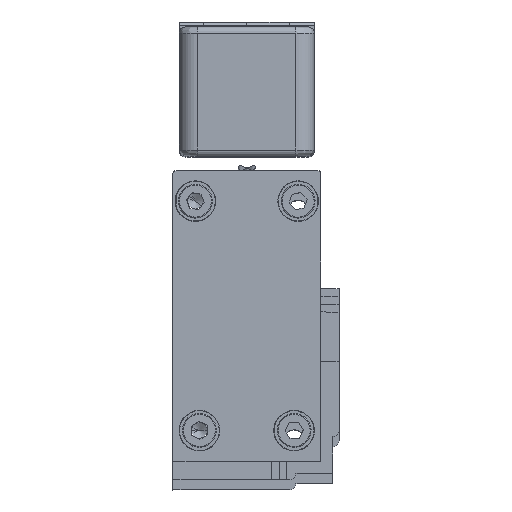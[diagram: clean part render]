
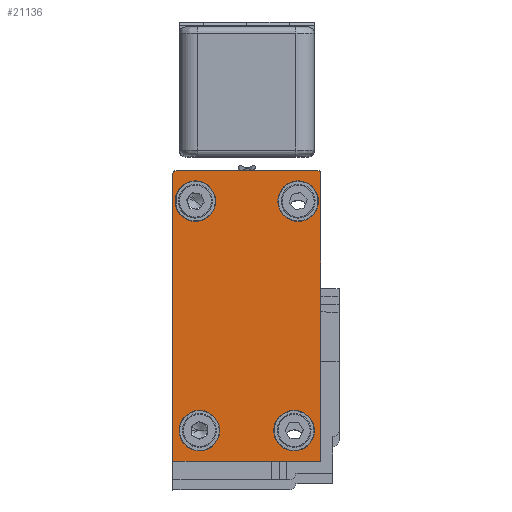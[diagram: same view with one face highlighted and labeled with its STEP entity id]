
A CAD part, top view. The second image highlights one B-rep face of the part: STEP entity #21136.
In plain terms, the highlighted planar face has unit normal (0, 0, 1).
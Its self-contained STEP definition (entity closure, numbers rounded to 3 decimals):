
#43 = AXIS2_PLACEMENT_3D ( 'NONE', #16595, #2184, #19029 ) ;
#168 = EDGE_CURVE ( 'NONE', #22736, #3345, #12163, .T. ) ;
#258 = EDGE_CURVE ( 'NONE', #15943, #29257, #19685, .T. ) ;
#313 = DIRECTION ( 'NONE',  ( 0., 0., -1. ) ) ;
#661 = CARTESIAN_POINT ( 'NONE',  ( 2.335, 21.401, 3185. ) ) ;
#801 = DIRECTION ( 'NONE',  ( -1., 0., 0. ) ) ;
#960 = CARTESIAN_POINT ( 'NONE',  ( 5.984, 7.11, 3185. ) ) ;
#1057 = EDGE_CURVE ( 'NONE', #9831, #22736, #25966, .T. ) ;
#1294 = ORIENTED_EDGE ( 'NONE', *, *, #14678, .T. ) ;
#1355 = CARTESIAN_POINT ( 'NONE',  ( 5.637, 21.401, 3185. ) ) ;
#1446 = CARTESIAN_POINT ( 'NONE',  ( 5.485, 26.371, 3185. ) ) ;
#1477 = EDGE_CURVE ( 'NONE', #4791, #14220, #13550, .T. ) ;
#1499 = CARTESIAN_POINT ( 'NONE',  ( 1.676, -15.887, 3185. ) ) ;
#1661 = CARTESIAN_POINT ( 'NONE',  ( 4.978, -15.887, 3185. ) ) ;
#2184 = DIRECTION ( 'NONE',  ( 0., 0., -1. ) ) ;
#2370 = CIRCLE ( 'NONE', #28950, 3.302 ) ;
#2825 = DIRECTION ( 'NONE',  ( 0., -1., 0. ) ) ;
#3046 = AXIS2_PLACEMENT_3D ( 'NONE', #14720, #313, #17115 ) ;
#3055 = DIRECTION ( 'NONE',  ( -1., 0., 0. ) ) ;
#3199 = ORIENTED_EDGE ( 'NONE', *, *, #27967, .T. ) ;
#3345 = VERTEX_POINT ( 'NONE', #4958 ) ;
#3647 = PLANE ( 'NONE',  #28754 ) ;
#3655 = EDGE_CURVE ( 'NONE', #29257, #15943, #30481, .T. ) ;
#3713 = EDGE_CURVE ( 'NONE', #28010, #25678, #21129, .T. ) ;
#3776 = CARTESIAN_POINT ( 'NONE',  ( -14.365, 21.401, 3185. ) ) ;
#3889 = DIRECTION ( 'NONE',  ( -1., 0., 0. ) ) ;
#4307 = FACE_BOUND ( 'NONE', #22161, .T. ) ;
#4791 = VERTEX_POINT ( 'NONE', #5826 ) ;
#4958 = CARTESIAN_POINT ( 'NONE',  ( 5.485, 26.371, 3185. ) ) ;
#5826 = CARTESIAN_POINT ( 'NONE',  ( -17.667, 21.401, 3185. ) ) ;
#6037 = VERTEX_POINT ( 'NONE', #12867 ) ;
#6174 = LINE ( 'NONE', #24635, #30937 ) ;
#6210 = DIRECTION ( 'NONE',  ( -1., 0., 0. ) ) ;
#6826 = VECTOR ( 'NONE', #22566, 1000. ) ;
#6977 = VERTEX_POINT ( 'NONE', #16620 ) ;
#7288 = ORIENTED_EDGE ( 'NONE', *, *, #1477, .T. ) ;
#7358 = AXIS2_PLACEMENT_3D ( 'NONE', #3776, #20615, #6210 ) ;
#7574 = ORIENTED_EDGE ( 'NONE', *, *, #10947, .T. ) ;
#7782 = VECTOR ( 'NONE', #2825, 1000. ) ;
#8158 = CARTESIAN_POINT ( 'NONE',  ( 5.485, 25.871, 3185. ) ) ;
#8566 = ORIENTED_EDGE ( 'NONE', *, *, #3713, .T. ) ;
#8655 = VERTEX_POINT ( 'NONE', #24096 ) ;
#8711 = AXIS2_PLACEMENT_3D ( 'NONE', #29523, #15213, #801 ) ;
#9306 = CARTESIAN_POINT ( 'NONE',  ( -17.514, 25.871, 3185. ) ) ;
#9805 = VERTEX_POINT ( 'NONE', #26819 ) ;
#9831 = VERTEX_POINT ( 'NONE', #24396 ) ;
#9957 = DIRECTION ( 'NONE',  ( 0., 0., -1. ) ) ;
#10024 = EDGE_LOOP ( 'NONE', ( #7288, #23574 ) ) ;
#10297 = ORIENTED_EDGE ( 'NONE', *, *, #12112, .T. ) ;
#10511 = EDGE_CURVE ( 'NONE', #27802, #20311, #29582, .T. ) ;
#10547 = DIRECTION ( 'NONE',  ( 0., 1., 0. ) ) ;
#10764 = CARTESIAN_POINT ( 'NONE',  ( -0.967, 21.401, 3185. ) ) ;
#10947 = EDGE_CURVE ( 'NONE', #8655, #28010, #26142, .T. ) ;
#10999 = AXIS2_PLACEMENT_3D ( 'NONE', #1499, #18321, #3889 ) ;
#11248 = CARTESIAN_POINT ( 'NONE',  ( -18.014, -20.888, 3185. ) ) ;
#11471 = FACE_BOUND ( 'NONE', #15220, .T. ) ;
#11735 = DIRECTION ( 'NONE',  ( 0., 1., 0. ) ) ;
#12112 = EDGE_CURVE ( 'NONE', #25678, #9831, #6174, .T. ) ;
#12163 = CIRCLE ( 'NONE', #20602, 0.5 ) ;
#12814 = ORIENTED_EDGE ( 'NONE', *, *, #168, .T. ) ;
#12867 = CARTESIAN_POINT ( 'NONE',  ( -17.017, -15.887, 3185. ) ) ;
#13210 = CARTESIAN_POINT ( 'NONE',  ( -1.626, -15.887, 3185. ) ) ;
#13340 = CARTESIAN_POINT ( 'NONE',  ( -18.014, -20.888, 3185. ) ) ;
#13550 = CIRCLE ( 'NONE', #28210, 3.302 ) ;
#13710 = DIRECTION ( 'NONE',  ( 0., 0., -1. ) ) ;
#14220 = VERTEX_POINT ( 'NONE', #15385 ) ;
#14678 = EDGE_CURVE ( 'NONE', #20311, #27802, #23937, .T. ) ;
#14720 = CARTESIAN_POINT ( 'NONE',  ( -13.714, -15.887, 3185. ) ) ;
#14763 = VECTOR ( 'NONE', #16084, 1000. ) ;
#15025 = ORIENTED_EDGE ( 'NONE', *, *, #258, .T. ) ;
#15213 = DIRECTION ( 'NONE',  ( 0., 0., -1. ) ) ;
#15220 = EDGE_LOOP ( 'NONE', ( #3199, #30056 ) ) ;
#15385 = CARTESIAN_POINT ( 'NONE',  ( -11.063, 21.401, 3185. ) ) ;
#15580 = ORIENTED_EDGE ( 'NONE', *, *, #3655, .T. ) ;
#15646 = ORIENTED_EDGE ( 'NONE', *, *, #21390, .F. ) ;
#15764 = DIRECTION ( 'NONE',  ( -1., 0., 0. ) ) ;
#15943 = VERTEX_POINT ( 'NONE', #1661 ) ;
#16084 = DIRECTION ( 'NONE',  ( 1., 0., 0. ) ) ;
#16595 = CARTESIAN_POINT ( 'NONE',  ( 2.335, 21.401, 3185. ) ) ;
#16620 = CARTESIAN_POINT ( 'NONE',  ( -10.412, -15.887, 3185. ) ) ;
#16704 = LINE ( 'NONE', #1446, #29451 ) ;
#17115 = DIRECTION ( 'NONE',  ( -1., 0., 0. ) ) ;
#17230 = CARTESIAN_POINT ( 'NONE',  ( -18.014, 25.871, 3185. ) ) ;
#17463 = DIRECTION ( 'NONE',  ( 0., 0., -1. ) ) ;
#18062 = DIRECTION ( 'NONE',  ( -1., 0., 0. ) ) ;
#18321 = DIRECTION ( 'NONE',  ( 0., 0., -1. ) ) ;
#18541 = CARTESIAN_POINT ( 'NONE',  ( -18.014, -20.888, 3185. ) ) ;
#19029 = DIRECTION ( 'NONE',  ( -1., 0., 0. ) ) ;
#19480 = AXIS2_PLACEMENT_3D ( 'NONE', #661, #17463, #3055 ) ;
#19685 = CIRCLE ( 'NONE', #8711, 3.302 ) ;
#20311 = VERTEX_POINT ( 'NONE', #1355 ) ;
#20602 = AXIS2_PLACEMENT_3D ( 'NONE', #8158, #24915, #10547 ) ;
#20615 = DIRECTION ( 'NONE',  ( 0., 0., -1. ) ) ;
#20878 = CIRCLE ( 'NONE', #3046, 3.302 ) ;
#20913 = EDGE_CURVE ( 'NONE', #6977, #6037, #20878, .T. ) ;
#21129 = LINE ( 'NONE', #11248, #14763 ) ;
#21136 = ADVANCED_FACE ( 'NONE', ( #24228, #4307, #23468, #11471, #29084 ), #3647, .T. ) ;
#21164 = ORIENTED_EDGE ( 'NONE', *, *, #10511, .T. ) ;
#21390 = EDGE_CURVE ( 'NONE', #8655, #9805, #23437, .T. ) ;
#21536 = EDGE_LOOP ( 'NONE', ( #15580, #15025 ) ) ;
#22161 = EDGE_LOOP ( 'NONE', ( #21164, #1294 ) ) ;
#22566 = DIRECTION ( 'NONE',  ( 0., 1., 0. ) ) ;
#22686 = CARTESIAN_POINT ( 'NONE',  ( 5.984, 25.871, 3185. ) ) ;
#22736 = VERTEX_POINT ( 'NONE', #22686 ) ;
#22759 = EDGE_CURVE ( 'NONE', #14220, #4791, #29682, .T. ) ;
#23356 = AXIS2_PLACEMENT_3D ( 'NONE', #9306, #26092, #11735 ) ;
#23437 = CIRCLE ( 'NONE', #23356, 0.5 ) ;
#23468 = FACE_BOUND ( 'NONE', #21536, .T. ) ;
#23574 = ORIENTED_EDGE ( 'NONE', *, *, #22759, .T. ) ;
#23937 = CIRCLE ( 'NONE', #43, 3.302 ) ;
#24096 = CARTESIAN_POINT ( 'NONE',  ( -18.014, 25.871, 3185. ) ) ;
#24228 = FACE_BOUND ( 'NONE', #10024, .T. ) ;
#24341 = CARTESIAN_POINT ( 'NONE',  ( -14.365, 21.401, 3185. ) ) ;
#24396 = CARTESIAN_POINT ( 'NONE',  ( 5.984, 7.11, 3185. ) ) ;
#24635 = CARTESIAN_POINT ( 'NONE',  ( 5.984, -20.888, 3185. ) ) ;
#24915 = DIRECTION ( 'NONE',  ( 0., 0., 1. ) ) ;
#25678 = VERTEX_POINT ( 'NONE', #30659 ) ;
#25966 = LINE ( 'NONE', #960, #6826 ) ;
#26092 = DIRECTION ( 'NONE',  ( 0., 0., -1. ) ) ;
#26142 = LINE ( 'NONE', #17230, #7782 ) ;
#26250 = ORIENTED_EDGE ( 'NONE', *, *, #1057, .T. ) ;
#26758 = DIRECTION ( 'NONE',  ( -1., 0., 0. ) ) ;
#26819 = CARTESIAN_POINT ( 'NONE',  ( -17.514, 26.371, 3185. ) ) ;
#27050 = DIRECTION ( 'NONE',  ( 0., 1., 0. ) ) ;
#27333 = EDGE_CURVE ( 'NONE', #3345, #9805, #16704, .T. ) ;
#27802 = VERTEX_POINT ( 'NONE', #10764 ) ;
#27967 = EDGE_CURVE ( 'NONE', #6037, #6977, #2370, .T. ) ;
#28010 = VERTEX_POINT ( 'NONE', #18541 ) ;
#28036 = CARTESIAN_POINT ( 'NONE',  ( -13.714, -15.887, 3185. ) ) ;
#28210 = AXIS2_PLACEMENT_3D ( 'NONE', #24341, #9957, #26758 ) ;
#28245 = ORIENTED_EDGE ( 'NONE', *, *, #27333, .T. ) ;
#28754 = AXIS2_PLACEMENT_3D ( 'NONE', #13340, #30087, #15764 ) ;
#28950 = AXIS2_PLACEMENT_3D ( 'NONE', #28036, #13710, #30452 ) ;
#29084 = FACE_OUTER_BOUND ( 'NONE', #31068, .T. ) ;
#29257 = VERTEX_POINT ( 'NONE', #13210 ) ;
#29451 = VECTOR ( 'NONE', #18062, 1000. ) ;
#29523 = CARTESIAN_POINT ( 'NONE',  ( 1.676, -15.887, 3185. ) ) ;
#29582 = CIRCLE ( 'NONE', #19480, 3.302 ) ;
#29682 = CIRCLE ( 'NONE', #7358, 3.302 ) ;
#30056 = ORIENTED_EDGE ( 'NONE', *, *, #20913, .T. ) ;
#30087 = DIRECTION ( 'NONE',  ( 0., 0., 1. ) ) ;
#30452 = DIRECTION ( 'NONE',  ( -1., 0., 0. ) ) ;
#30481 = CIRCLE ( 'NONE', #10999, 3.302 ) ;
#30659 = CARTESIAN_POINT ( 'NONE',  ( 5.984, -20.888, 3185. ) ) ;
#30937 = VECTOR ( 'NONE', #27050, 1000. ) ;
#31068 = EDGE_LOOP ( 'NONE', ( #10297, #26250, #12814, #28245, #15646, #7574, #8566 ) ) ;
